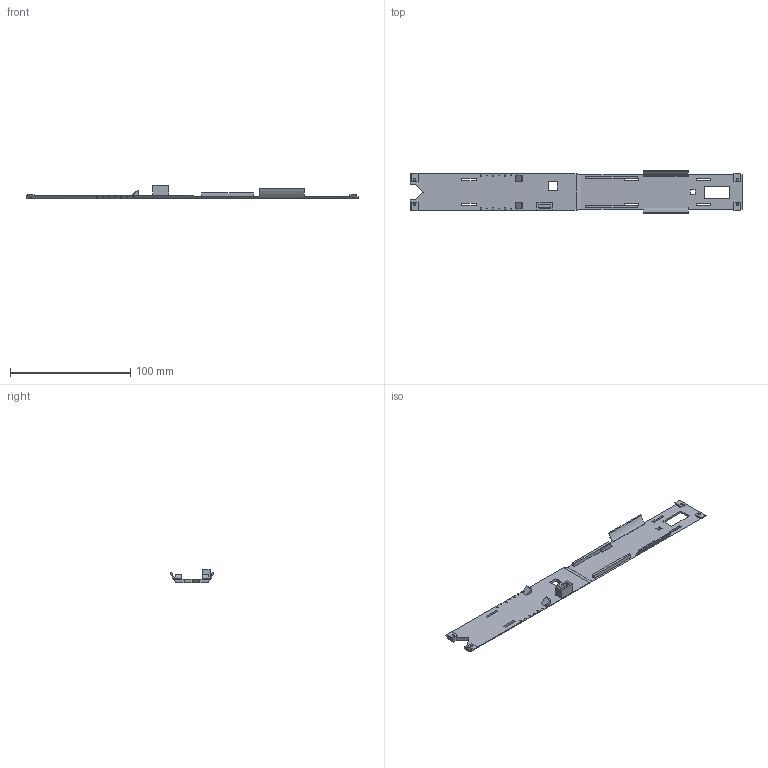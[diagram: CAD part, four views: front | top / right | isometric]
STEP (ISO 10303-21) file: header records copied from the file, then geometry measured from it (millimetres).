
FILE_DESCRIPTION(('SkyG Speed 90B - revision C6B-13 - 2026-10-11','TR-equipment-tray'),'2;1');
FILE_NAME('TR-equipment-tray_C6B-13','2026-10-11T17:52:52',('Author'),( 'Open CASCADE'),'Open CASCADE STEP processor 7.9','Open CASCADE 7.9' ,'Unknown');
FILE_SCHEMA(('AUTOMOTIVE_DESIGN { 1 0 10303 214 1 1 1 1 }'));
Length unit declared in the file: millimetre
Products named in the file (1): TR-equipment-tray C6B-13
Bounding box: 276 x 36.14 x 11.1 mm (x, y, z)
Volume: 17992.4 mm3; surface area: 19241.1 mm2
Topology: 1 solids, 1 shells, 167 faces, 501 edges, 334 vertices
Faces by surface type: plane 159, cylinder 8
Full cylindrical faces by diameter (mm): 1.6 x4
Entity records: 12140 total; most frequent: CARTESIAN_POINT 3147, DIRECTION 1325, ORIENTED_EDGE 1002, PCURVE 1002, DEFINITIONAL_REPRESENTATION 1002, LINE 805, VECTOR 805, B_SPLINE_CURVE_WITH_KNOTS 574
